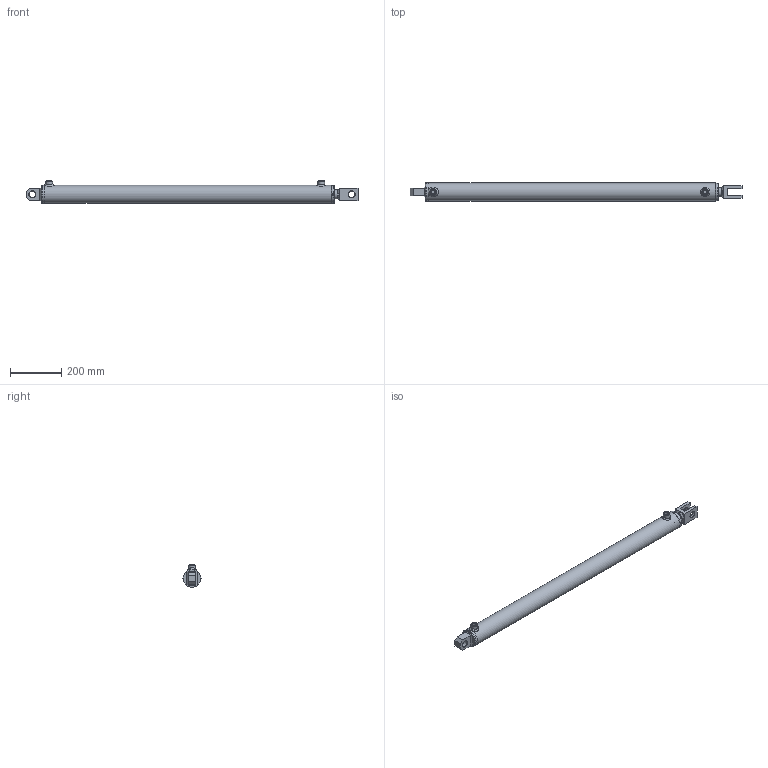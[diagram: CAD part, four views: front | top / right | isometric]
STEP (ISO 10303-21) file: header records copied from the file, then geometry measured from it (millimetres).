
FILE_DESCRIPTION( ( 'Unknown' ), '1' );
FILE_NAME( 'E:/LIBRERIA_3d/CILINDRI/HM5/HM53351000.stp', 'Unknown', ( 'Unknown' ), ( 'Unknown' ), 'PSStep 17.0.49', 'Unknown', ' ' );
FILE_SCHEMA( ( 'AUTOMOTIVE_DESIGN { 1 0 10303 214 1 1 1 1 }' ) );
Length unit declared in the file: millimetre
Products named in the file (40): CT00060020; STL3501000-oa8; Saldatura d'angolo 1-oa6; FTM3501000-oa7; CBSC220600; CG07006035; HM03351000; Saldatura con preparazione 1-oa4; Saldatura d'angolo 1-oa5; CF00060070; CBS0600000; CDA0002015; APG0600000; SBL3531000; Assem1; COF2500000; CFS0000025; Saldatura d'angolo 1-oa0; Saldatura d'angolo 2-oa1; Saldatura con preparazione 1-oa2; Saldatura d'angolo 3-oa3
Assembly tree (20 placements, depth 4):
  Saldatura d'angolo 1-oa6
  Saldatura d'angolo 1-oa6
  Saldatura d'angolo 1-oa5
  Saldatura d'angolo 1-oa5
  Assem1
    COF2500000
    CFS0000025
    Saldatura con preparazione 1-oa2
    Saldatura con preparazione 1-oa2
    HM03351000
      Saldatura con preparazione 1-oa4
      Saldatura con preparazione 1-oa4
      CF00060070
      CBS0600000
      CDA0002015
      APG0600000  x2
      SBL3531000
      CT00060020
        CT00060020
      STL3501000-oa8
        FTM3501000-oa7
        CBSC220600
      CG07006035
        CG07006035
Bounding box: 1290 x 70 x 89 mm (x, y, z)
Volume: 2630618.5 mm3; surface area: 712490.2 mm2
Topology: 36 solids, 36 shells, 322 faces, 653 edges, 414 vertices
Faces by surface type: plane 142, cylinder 72, cone 52, torus 38, bspline 18
Full cylindrical faces by diameter (mm): 4.25 x3, 5 x2, 6 x2, 7 x2, 14.95 x2, 16 x2, 16.6 x2, 19.4 x1, 20 x5, 22 x2, 24.5 x1, 25.25 x3, 26 x2, 30 x1, 35 x6, 37 x1, 38 x1, 43.6 x1, 44 x1, 45 x1, 55 x1, 55.39 x2, 58.65 x2, 59.9 x1, 60 x1, 60.3 x1, 60.5 x1, 60.6 x1, 61 x1, 62 x3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
Entity records: 13116 total; most frequent: CARTESIAN_POINT 4467, DIRECTION 1288, ORIENTED_EDGE 876, AXIS2_PLACEMENT_3D 550, EDGE_LOOP 502, EDGE_CURVE 438, FACE_OUTER_BOUND 412, VERTEX_POINT 355
